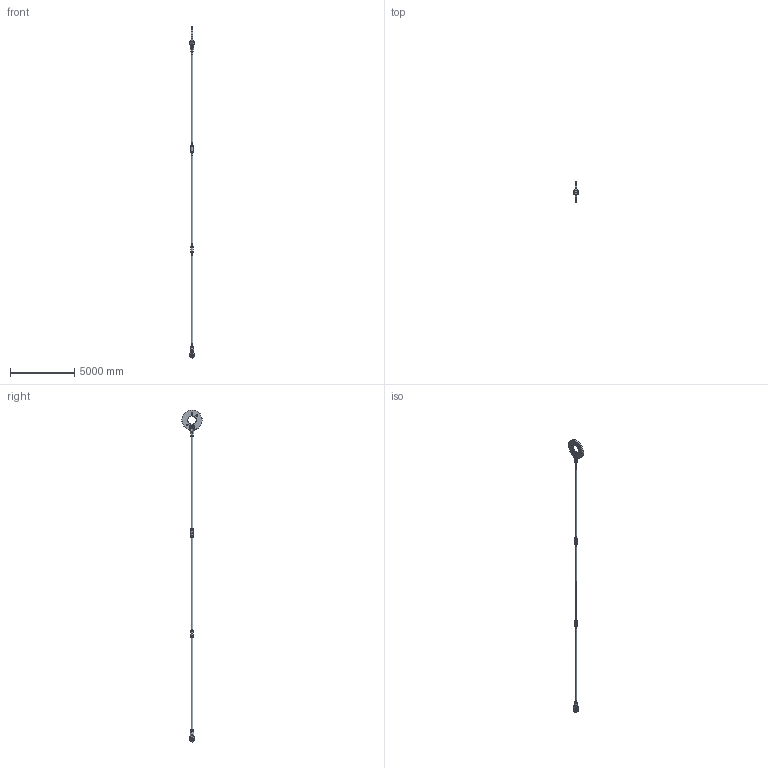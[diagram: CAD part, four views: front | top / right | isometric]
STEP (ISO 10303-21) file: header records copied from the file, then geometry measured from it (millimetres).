
FILE_DESCRIPTION(/* description */ (''),/* implementation_level */ '2;1');
FILE_NAME(/* name */ 'C:\Vault-WS\Anker\Werksnorm\Hochbau\ASDO-System\ASDO-S\für Kunden\3d\Step\M 130.stp',/* time_stamp */ '2014-06-12T09:56:58+02:00',/* author */ ('ritgen'),/* organization */ (''),/* preprocessor_version */ 'ST-DEVELOPER v15.2',/* originating_system */ 'Autodesk Inventor 2014',/* authorisation */ '');
FILE_SCHEMA (('AUTOMOTIVE_DESIGN { 1 0 10303 214 3 1 1 }'));
Length unit declared in the file: millimetre
Products named in the file (11): ASDO-005777; ASDO-014282; ASDO-014332; DIN 7991 - M20x50 - 8.8; ASDO-013951; ASDO-001743; ASDO-001372; ASDO-001471; ASDO-006507; ASDO-014080; ASDO-006506
Bounding box: 327.71 x 1573.5 x 25902.16 mm (x, y, z)
Volume: 589716944 mm3; surface area: 18629156.2 mm2
Topology: 24 solids, 24 shells, 501 faces, 1079 edges, 654 vertices
Faces by surface type: plane 152, bspline 144, cylinder 95, cone 60, torus 50
Full cylindrical faces by diameter (mm): 11 x18, 17.294 x4, 20 x4, 22.5 x4, 25 x4, 36 x4, 123.505 x12, 130 x5, 132 x7, 133 x8, 135 x1, 136 x6, 187 x6, 189 x4, 216 x2, 650 x1, 1575 x1
Entity records: 14231 total; most frequent: CARTESIAN_POINT 9955, ORIENTED_EDGE 756, DIRECTION 754, EDGE_CURVE 378, AXIS2_PLACEMENT_3D 355, EDGE_LOOP 344, VERTEX_POINT 272, ADVANCED_FACE 218
